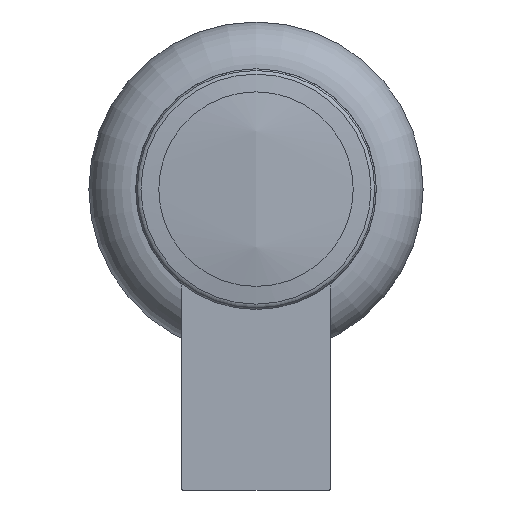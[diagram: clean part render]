
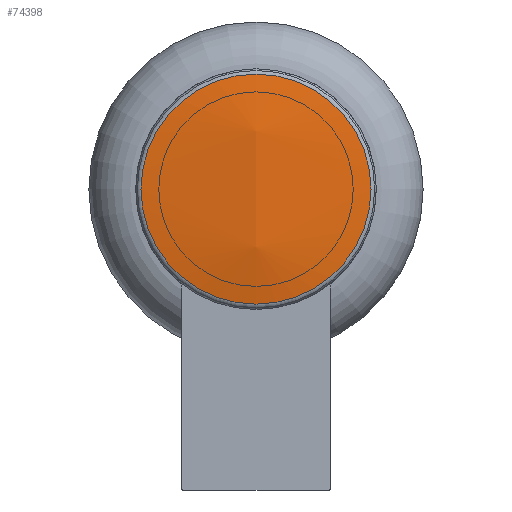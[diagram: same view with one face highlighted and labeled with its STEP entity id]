
A CAD part, front view. The second image highlights one B-rep face of the part: STEP entity #74398.
In plain terms, the highlighted spherical face has radius 168.893 mm.
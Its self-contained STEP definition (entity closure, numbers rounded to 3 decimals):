
#2158=SPHERICAL_SURFACE('',#80747,168.893);
#9631=FACE_OUTER_BOUND('',#13750,.T.);
#13750=EDGE_LOOP('',(#57428));
#32086=CIRCLE('',#80743,34.407);
#35375=VERTEX_POINT('',#111384);
#43502=EDGE_CURVE('',#35375,#35375,#32086,.T.);
#57428=ORIENTED_EDGE('',*,*,#43502,.F.);
#74398=ADVANCED_FACE('',(#9631),#2158,.T.);
#80743=AXIS2_PLACEMENT_3D('',#111386,#91355,#91356);
#80747=AXIS2_PLACEMENT_3D('',#111392,#91364,#91365);
#91355=DIRECTION('center_axis',(1.,0.,0.));
#91356=DIRECTION('ref_axis',(0.,0.,-1.));
#91364=DIRECTION('center_axis',(0.,0.,1.));
#91365=DIRECTION('ref_axis',(-1.,-0.001,0.));
#111384=CARTESIAN_POINT('',(3.542,0.,34.407));
#111386=CARTESIAN_POINT('Origin',(3.542,0.,
0.));
#111392=CARTESIAN_POINT('Origin',(168.893,0.,0.));
